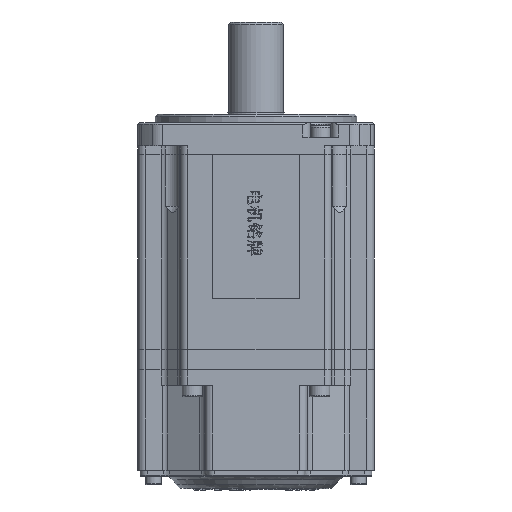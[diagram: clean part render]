
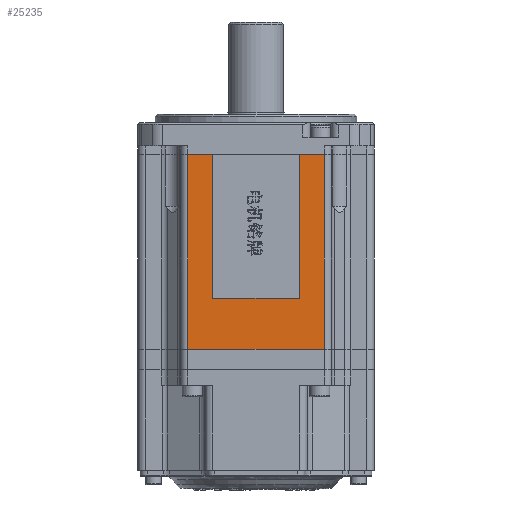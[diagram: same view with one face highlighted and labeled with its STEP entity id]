
A CAD part, front view. The second image highlights one B-rep face of the part: STEP entity #25235.
In plain terms, the highlighted planar face has unit normal (0, -1, 0).
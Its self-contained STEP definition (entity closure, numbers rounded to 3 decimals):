
#168 = EDGE_CURVE ( 'NONE', #29200, #48326, #38880, .T. ) ;
#1917 = LINE ( 'NONE', #34082, #74693 ) ;
#2391 = CARTESIAN_POINT ( 'NONE',  ( 15., -41., 67.7 ) ) ;
#4778 = VERTEX_POINT ( 'NONE', #72965 ) ;
#6287 = ORIENTED_EDGE ( 'NONE', *, *, #42305, .T. ) ;
#7045 = CARTESIAN_POINT ( 'NONE',  ( -23.75, -41., 1000. ) ) ;
#7297 = EDGE_CURVE ( 'NONE', #29200, #56743, #47262, .T. ) ;
#7360 = VERTEX_POINT ( 'NONE', #2391 ) ;
#9849 = EDGE_CURVE ( 'NONE', #56743, #52081, #64490, .T. ) ;
#10004 = VECTOR ( 'NONE', #39099, 1000. ) ;
#10612 = ORIENTED_EDGE ( 'NONE', *, *, #53728, .F. ) ;
#12146 = CARTESIAN_POINT ( 'NONE',  ( 15., -41., 17.7 ) ) ;
#12157 = LINE ( 'NONE', #7045, #34455 ) ;
#12694 = VECTOR ( 'NONE', #64031, 1000. ) ;
#13396 = PLANE ( 'NONE',  #63532 ) ;
#13735 = ORIENTED_EDGE ( 'NONE', *, *, #168, .T. ) ;
#14186 = CARTESIAN_POINT ( 'NONE',  ( 23.75, -41., 1000. ) ) ;
#14244 = DIRECTION ( 'NONE',  ( 1., 0., 0. ) ) ;
#15453 = DIRECTION ( 'NONE',  ( 1., 0., 0. ) ) ;
#18155 = EDGE_LOOP ( 'NONE', ( #47851, #10612, #46066, #33638, #13735, #6287, #71892, #71659 ) ) ;
#18735 = LINE ( 'NONE', #14186, #10004 ) ;
#21640 = VERTEX_POINT ( 'NONE', #69368 ) ;
#22305 = EDGE_CURVE ( 'NONE', #33416, #7360, #54481, .T. ) ;
#25235 = ADVANCED_FACE ( 'NONE', ( #35075 ), #13396, .F. ) ;
#26857 = CARTESIAN_POINT ( 'NONE',  ( -198.803, -41., 67.7 ) ) ;
#29200 = VERTEX_POINT ( 'NONE', #61893 ) ;
#29973 = CARTESIAN_POINT ( 'NONE',  ( -198.803, -41., 67.7 ) ) ;
#33416 = VERTEX_POINT ( 'NONE', #50384 ) ;
#33638 = ORIENTED_EDGE ( 'NONE', *, *, #7297, .F. ) ;
#34082 = CARTESIAN_POINT ( 'NONE',  ( 15., -41., 17.7 ) ) ;
#34455 = VECTOR ( 'NONE', #68613, 1000. ) ;
#35075 = FACE_OUTER_BOUND ( 'NONE', #18155, .T. ) ;
#38880 = LINE ( 'NONE', #26857, #12694 ) ;
#39099 = DIRECTION ( 'NONE',  ( 0., 0., -1. ) ) ;
#40647 = VECTOR ( 'NONE', #14244, 1000. ) ;
#42305 = EDGE_CURVE ( 'NONE', #48326, #4778, #12157, .T. ) ;
#42557 = CARTESIAN_POINT ( 'NONE',  ( -15., -41., 17.7 ) ) ;
#43612 = EDGE_CURVE ( 'NONE', #33416, #21640, #18735, .T. ) ;
#44829 = CARTESIAN_POINT ( 'NONE',  ( -23.75, -41., 1000. ) ) ;
#46066 = ORIENTED_EDGE ( 'NONE', *, *, #9849, .F. ) ;
#47262 = LINE ( 'NONE', #62375, #74437 ) ;
#47851 = ORIENTED_EDGE ( 'NONE', *, *, #22305, .T. ) ;
#48326 = VERTEX_POINT ( 'NONE', #60568 ) ;
#50384 = CARTESIAN_POINT ( 'NONE',  ( 23.75, -41., 67.7 ) ) ;
#51359 = CARTESIAN_POINT ( 'NONE',  ( -23.75, -41., 0. ) ) ;
#52081 = VERTEX_POINT ( 'NONE', #12146 ) ;
#53728 = EDGE_CURVE ( 'NONE', #52081, #7360, #1917, .T. ) ;
#54280 = EDGE_CURVE ( 'NONE', #4778, #21640, #63943, .T. ) ;
#54481 = LINE ( 'NONE', #29973, #73894 ) ;
#56743 = VERTEX_POINT ( 'NONE', #42557 ) ;
#58234 = DIRECTION ( 'NONE',  ( 0., 0., 1. ) ) ;
#60568 = CARTESIAN_POINT ( 'NONE',  ( -23.75, -41., 67.7 ) ) ;
#61893 = CARTESIAN_POINT ( 'NONE',  ( -15., -41., 67.7 ) ) ;
#62375 = CARTESIAN_POINT ( 'NONE',  ( -15., -41., 17.7 ) ) ;
#62640 = DIRECTION ( 'NONE',  ( 0., 0., -1. ) ) ;
#62750 = DIRECTION ( 'NONE',  ( 0., 1., 0. ) ) ;
#63532 = AXIS2_PLACEMENT_3D ( 'NONE', #44829, #62750, #68438 ) ;
#63943 = LINE ( 'NONE', #51359, #40647 ) ;
#64031 = DIRECTION ( 'NONE',  ( -1., 0., 0. ) ) ;
#64490 = LINE ( 'NONE', #65361, #70338 ) ;
#65361 = CARTESIAN_POINT ( 'NONE',  ( -15., -41., 17.7 ) ) ;
#68438 = DIRECTION ( 'NONE',  ( 0., 0., 1. ) ) ;
#68613 = DIRECTION ( 'NONE',  ( 0., 0., -1. ) ) ;
#69368 = CARTESIAN_POINT ( 'NONE',  ( 23.75, -41., 0. ) ) ;
#70338 = VECTOR ( 'NONE', #15453, 1000. ) ;
#71659 = ORIENTED_EDGE ( 'NONE', *, *, #43612, .F. ) ;
#71892 = ORIENTED_EDGE ( 'NONE', *, *, #54280, .T. ) ;
#72965 = CARTESIAN_POINT ( 'NONE',  ( -23.75, -41., 0. ) ) ;
#73403 = DIRECTION ( 'NONE',  ( -1., 0., 0. ) ) ;
#73894 = VECTOR ( 'NONE', #73403, 1000. ) ;
#74437 = VECTOR ( 'NONE', #62640, 1000. ) ;
#74693 = VECTOR ( 'NONE', #58234, 1000. ) ;
